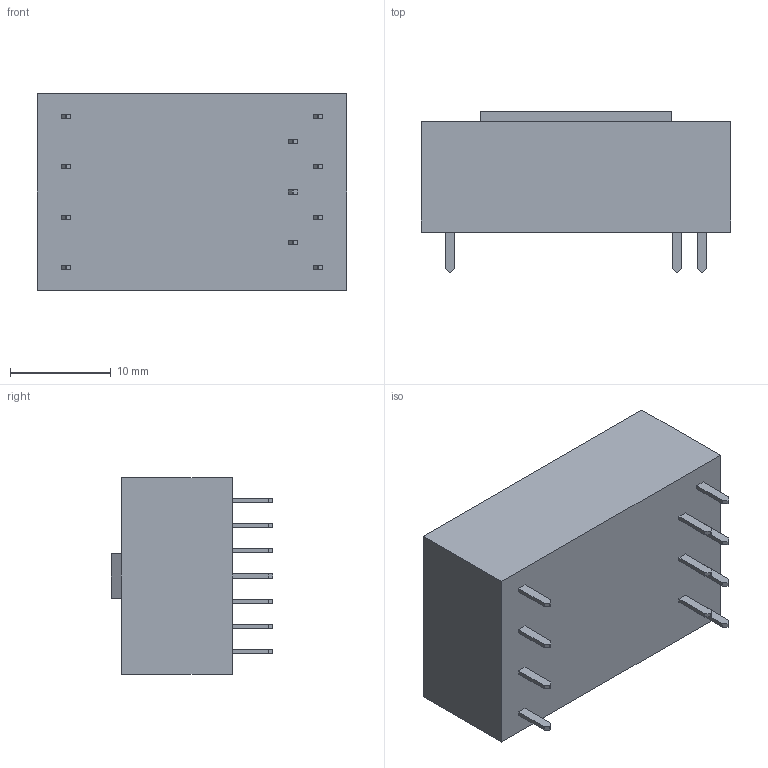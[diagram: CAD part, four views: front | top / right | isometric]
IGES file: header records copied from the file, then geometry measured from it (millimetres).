
Start section: SolidWorks IGES file using analytic representation for surfaces
Global section: file name: D:\X - Arquivos\PROEX\Empresas\P11 - METALTEX\01 - Produtos\IGES\7ª remessa\2ª etapa\RD3RC2.IGS; native system: SolidWorks 2012; preprocessor: SolidWorks 2012; author: Usuario; date: 190912.134720; units: millimetre
Bounding box: 30.7 x 16 x 19.5 mm (x, y, z)
Surface area: 2647.4 mm2 (no closed solid volume)
Topology: 0 solids, 0 shells, 179 faces, 912 edges, 912 vertices
Faces by surface type: bspline 179
